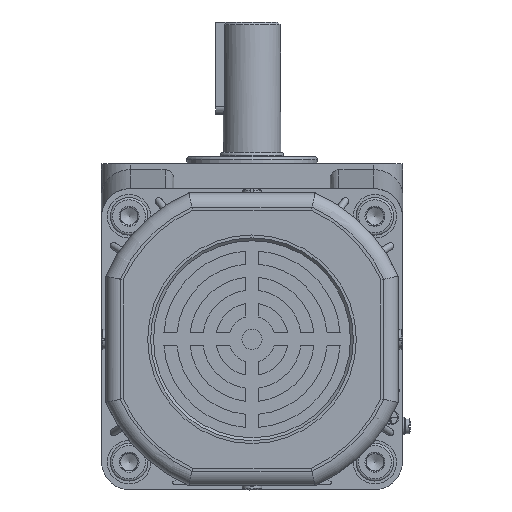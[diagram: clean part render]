
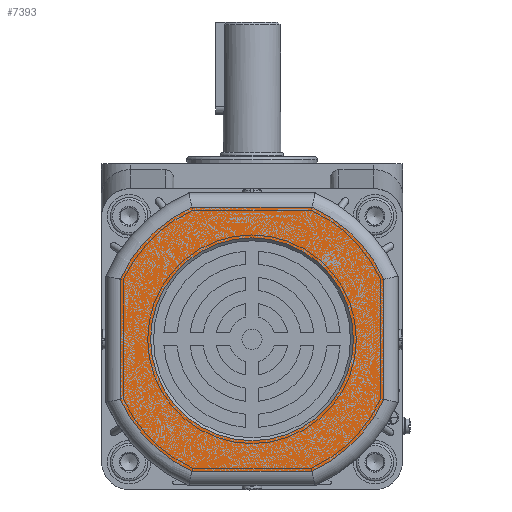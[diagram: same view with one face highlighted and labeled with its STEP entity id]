
A CAD part, left-side view. The second image highlights one B-rep face of the part: STEP entity #7393.
In plain terms, the highlighted planar face has unit normal (-1, 0, 0).
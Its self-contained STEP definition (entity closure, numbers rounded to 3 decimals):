
#3478=LINE('',#45093,#5085);
#3479=LINE('',#45098,#5086);
#3480=LINE('',#45102,#5087);
#3481=LINE('',#45106,#5088);
#5085=VECTOR('',#34546,1.);
#5086=VECTOR('',#34549,1.);
#5087=VECTOR('',#34552,1.);
#5088=VECTOR('',#34555,1.);
#7393=ADVANCED_FACE('',(#9575,#9576),#8692,.F.);
#8692=PLANE('',#29768);
#9575=FACE_BOUND('',#10877,.T.);
#9576=FACE_BOUND('',#10878,.T.);
#10877=EDGE_LOOP('',(#15201));
#10878=EDGE_LOOP('',(#15202,#15203,#15204,#15205,#15206,#15207,#15208,#15209));
#15201=ORIENTED_EDGE('',*,*,#24349,.T.);
#15202=ORIENTED_EDGE('',*,*,#24350,.T.);
#15203=ORIENTED_EDGE('',*,*,#24351,.T.);
#15204=ORIENTED_EDGE('',*,*,#24352,.T.);
#15205=ORIENTED_EDGE('',*,*,#24353,.T.);
#15206=ORIENTED_EDGE('',*,*,#24354,.T.);
#15207=ORIENTED_EDGE('',*,*,#24355,.T.);
#15208=ORIENTED_EDGE('',*,*,#24356,.T.);
#15209=ORIENTED_EDGE('',*,*,#24357,.T.);
#21176=VERTEX_POINT('',#45092);
#21177=VERTEX_POINT('',#45094);
#21178=VERTEX_POINT('',#45095);
#21179=VERTEX_POINT('',#45097);
#21180=VERTEX_POINT('',#45099);
#21181=VERTEX_POINT('',#45101);
#21182=VERTEX_POINT('',#45103);
#21183=VERTEX_POINT('',#45105);
#21184=VERTEX_POINT('',#45107);
#24349=EDGE_CURVE('',#21176,#21176,#27647,.T.);
#24350=EDGE_CURVE('',#21177,#21178,#3478,.T.);
#24351=EDGE_CURVE('',#21178,#21179,#27648,.T.);
#24352=EDGE_CURVE('',#21179,#21180,#3479,.T.);
#24353=EDGE_CURVE('',#21180,#21181,#27649,.T.);
#24354=EDGE_CURVE('',#21181,#21182,#3480,.T.);
#24355=EDGE_CURVE('',#21182,#21183,#27650,.T.);
#24356=EDGE_CURVE('',#21183,#21184,#3481,.T.);
#24357=EDGE_CURVE('',#21184,#21177,#27651,.T.);
#27647=CIRCLE('',#29763,35.);
#27648=CIRCLE('',#29764,50.);
#27649=CIRCLE('',#29765,50.);
#27650=CIRCLE('',#29766,50.);
#27651=CIRCLE('',#29767,50.);
#29763=AXIS2_PLACEMENT_3D('',#45091,#34544,#34545);
#29764=AXIS2_PLACEMENT_3D('',#45096,#34547,#34548);
#29765=AXIS2_PLACEMENT_3D('',#45100,#34550,#34551);
#29766=AXIS2_PLACEMENT_3D('',#45104,#34553,#34554);
#29767=AXIS2_PLACEMENT_3D('',#45108,#34556,#34557);
#29768=AXIS2_PLACEMENT_3D('',#45109,#34558,#34559);
#34544=DIRECTION('',(1.,0.,0.));
#34545=DIRECTION('',(0.,-1.,0.));
#34546=DIRECTION('',(0.,-1.,0.));
#34547=DIRECTION('',(-1.,0.,0.));
#34548=DIRECTION('',(0.,0.,1.));
#34549=DIRECTION('',(0.,0.,1.));
#34550=DIRECTION('',(-1.,0.,0.));
#34551=DIRECTION('',(0.,0.,1.));
#34552=DIRECTION('',(0.,1.,0.));
#34553=DIRECTION('',(-1.,0.,0.));
#34554=DIRECTION('',(0.,0.,1.));
#34555=DIRECTION('',(0.,0.,-1.));
#34556=DIRECTION('',(-1.,0.,0.));
#34557=DIRECTION('',(0.,0.,1.));
#34558=DIRECTION('',(1.,0.,0.));
#34559=DIRECTION('',(0.,0.,1.));
#45091=CARTESIAN_POINT('',(-269.8,-120.671,-58.491));
#45092=CARTESIAN_POINT('',(-269.8,-155.671,-58.491));
#45093=CARTESIAN_POINT('',(-269.8,-142.46,-103.991));
#45094=CARTESIAN_POINT('',(-269.8,-99.941,-103.991));
#45095=CARTESIAN_POINT('',(-269.8,-141.402,-103.991));
#45096=CARTESIAN_POINT('',(-269.8,-120.671,-58.491));
#45097=CARTESIAN_POINT('',(-269.8,-166.171,-79.221));
#45098=CARTESIAN_POINT('',(-269.8,-166.171,-36.702));
#45099=CARTESIAN_POINT('',(-269.8,-166.171,-37.76));
#45100=CARTESIAN_POINT('',(-269.8,-120.671,-58.491));
#45101=CARTESIAN_POINT('',(-269.8,-141.402,-12.991));
#45102=CARTESIAN_POINT('',(-269.8,-98.882,-12.991));
#45103=CARTESIAN_POINT('',(-269.8,-99.941,-12.991));
#45104=CARTESIAN_POINT('',(-269.8,-120.671,-58.491));
#45105=CARTESIAN_POINT('',(-269.8,-75.171,-37.76));
#45106=CARTESIAN_POINT('',(-269.8,-75.171,-80.28));
#45107=CARTESIAN_POINT('',(-269.8,-75.171,-79.221));
#45108=CARTESIAN_POINT('',(-269.8,-120.671,-58.491));
#45109=CARTESIAN_POINT('',(-269.8,-120.671,-58.491));
